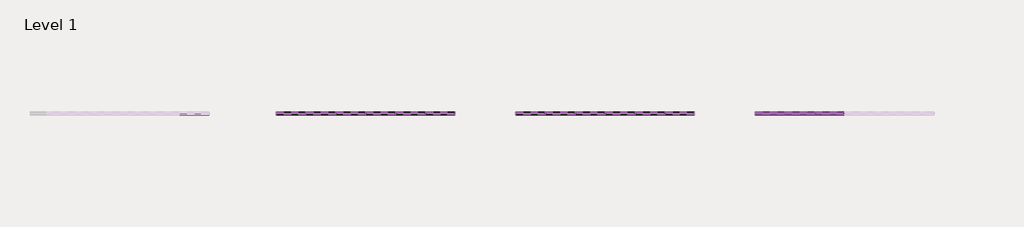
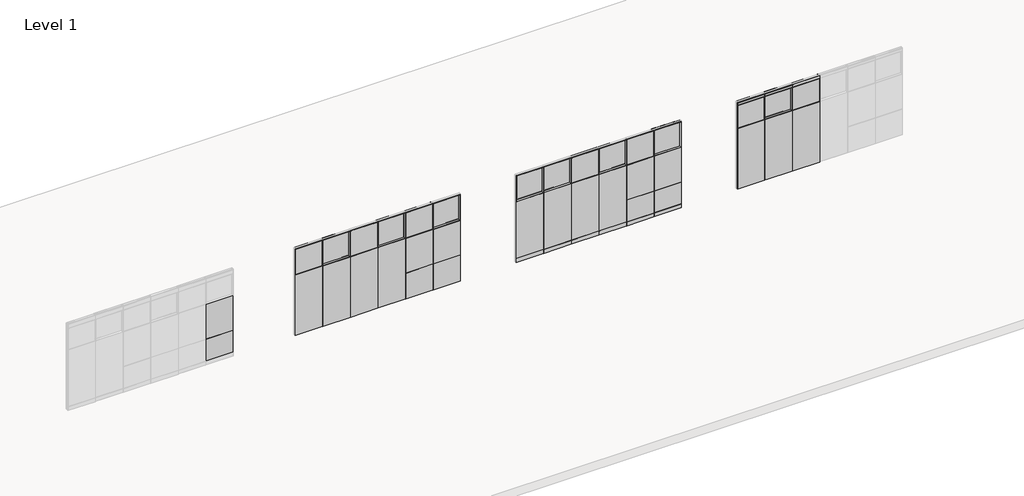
# One storey, part 14 of 22: 109 proxies.
"""IFC4 building model written with IfcOpenShell, lengths in millimetres."""

from ifc_helpers import new_model, si_unit, origin, place, context, project, spatial, transform, mapped, element, save
from components import fascia_teknion_ceiling_and_base_fpb1_0bfeef01, fascia_teknion_ceiling_and_base_fpb1_b9f04170, fascia_teknion_ceiling_and_base_fpb1_707b8d37, fascia_teknion_ceiling_and_base_fpb1_816009f4, fascia_teknion_ceiling_and_base_fpb1_c09701a2, fascia_teknion_ceiling_and_base_fpb1_cd47c96b, fascia_teknion_ceiling_and_base_fpc_0fdf7194, fascia_teknion_ceiling_and_base_fpc_b0ac7cd3, frame_teknion_horizontal_rail_5872ae1a, frame_teknion_horizontal_rail_46ee653b, glass_fascia_6f81bcf7, glass_fascia_75a64c95, glass_fascia_467b1f08, glass_fascia_2d5cffca, glass_fascia_d2a417b3, glass_fascia_b43ce2ad, glass_fascia_649ace3c, working_wall_monolithic_level_i_40b02bc1, level_ii_766fe766, level_ii_d745e7d9, level_ii_52e50c64, level_ii_09c6d2e8, segmented_monolithic_level_i_c740ac9f, segmented_monolithic_level_i_1ec0774b, segmented_monolithic_level_i_c631dfd0, segmented_monolithic_level_i_f7c86621, segmented_monolithic_level_i_79c8b360, segmented_monolithic_level_i_954095a9, segmented_monolithic_level_i_12355878, segmented_monolithic_level_i_a90e165b, working_wall_monolithic_level_i_0fd3c68e, working_wall_monolithic_level_i_0b7852cd, working_wall_monolithic_level_i_72bc8cad, working_wall_monolithic_level_i_9d4bea93, working_wall_monolithic_level_i_ddf61f7f, working_wall_monolithic_level_i_49ea217e, working_wall_monolithic_level_i_39047d6b

model = new_model("IFC4")

# Units and contexts
model_context = context("Model", 3, world=origin())
ifc_project = project(units=[si_unit("LENGTHUNIT", "METRE", prefix="MILLI")], contexts=[model_context])

# Site, building, storey
site = spatial("IfcSite", under=ifc_project)
building = spatial("IfcBuilding", under=site)
storey = spatial("IfcBuildingStorey", under=building, Name="Level 1", Elevation=0.0)

# Proxies
placement = place(None, origin())
fascia_teknion_ceiling_and_base_fpb1_shape = fascia_teknion_ceiling_and_base_fpb1_0bfeef01(model_context)
element("IfcBuildingElementProxy", 1, Name="Fascia-Teknion-Ceiling_and_Base : FPB1", ObjectType="Fascia-Teknion-Ceiling_and_Base : FPB1", at=placement, inside=storey, context=model_context, shape_type="MappedRepresentation", body=[
    mapped(fascia_teknion_ceiling_and_base_fpb1_shape, transform((36696.9908134, 1843.3402105, 15.875), x_axis=(1.0, 0.0, 0.0), y_axis=(0.0, 1.0, 0.0), z_axis=(0.0, 0.0, 1.0))),
])
element("IfcBuildingElementProxy", 2, Name="Fascia-Teknion-Ceiling_and_Base : FPB1", ObjectType="Fascia-Teknion-Ceiling_and_Base : FPB1", at=placement, inside=storey, context=model_context, shape_type="MappedRepresentation", body=[
    mapped(fascia_teknion_ceiling_and_base_fpb1_shape, transform((41255.0009696, 1843.3402105, 15.875), x_axis=(1.0, 0.0, 0.0), y_axis=(0.0, 1.0, 0.0), z_axis=(0.0, 0.0, 1.0))),
])
fascia_teknion_ceiling_and_base_fpb1_2_shape = fascia_teknion_ceiling_and_base_fpb1_b9f04170(model_context)
element("IfcBuildingElementProxy", 3, Name="Fascia-Teknion-Ceiling_and_Base : FPB1", ObjectType="Fascia-Teknion-Ceiling_and_Base : FPB1", at=placement, inside=storey, context=model_context, shape_type="MappedRepresentation", body=[
    mapped(fascia_teknion_ceiling_and_base_fpb1_2_shape, transform((36696.9908134, 1781.3642105, 15.875), x_axis=(1.0, 0.0, 0.0), y_axis=(0.0, 1.0, 0.0), z_axis=(0.0, 0.0, 1.0))),
])
element("IfcBuildingElementProxy", 4, Name="Fascia-Teknion-Ceiling_and_Base : FPB1", ObjectType="Fascia-Teknion-Ceiling_and_Base : FPB1", at=placement, inside=storey, context=model_context, shape_type="MappedRepresentation", body=[
    mapped(fascia_teknion_ceiling_and_base_fpb1_2_shape, transform((41255.0009696, 1781.3642105, 15.875), x_axis=(1.0, 0.0, 0.0), y_axis=(0.0, 1.0, 0.0), z_axis=(0.0, 0.0, 1.0))),
])
fascia_teknion_ceiling_and_base_fpb1_3_shape = fascia_teknion_ceiling_and_base_fpb1_707b8d37(model_context)
element("IfcBuildingElementProxy", 5, Name="Fascia-Teknion-Ceiling_and_Base : FPB1", ObjectType="Fascia-Teknion-Ceiling_and_Base : FPB1", at=placement, inside=storey, context=model_context, shape_type="MappedRepresentation", body=[
    mapped(fascia_teknion_ceiling_and_base_fpb1_3_shape, transform((40347.5958915, 1781.3642105, 15.875), x_axis=(1.0, 0.0, 0.0), y_axis=(0.0, 1.0, 0.0), z_axis=(0.0, 0.0, 1.0))),
])
element("IfcBuildingElementProxy", 6, Name="Fascia-Teknion-Ceiling_and_Base : FPB1", ObjectType="Fascia-Teknion-Ceiling_and_Base : FPB1", at=placement, inside=storey, context=model_context, shape_type="MappedRepresentation", body=[
    mapped(fascia_teknion_ceiling_and_base_fpb1_3_shape, transform((39433.1958915, 1781.3642105, 15.875), x_axis=(1.0, 0.0, 0.0), y_axis=(0.0, 1.0, 0.0), z_axis=(0.0, 0.0, 1.0))),
])
element("IfcBuildingElementProxy", 7, Name="Fascia-Teknion-Ceiling_and_Base : FPB1", ObjectType="Fascia-Teknion-Ceiling_and_Base : FPB1", at=placement, inside=storey, context=model_context, shape_type="MappedRepresentation", body=[
    mapped(fascia_teknion_ceiling_and_base_fpb1_3_shape, transform((38518.7958915, 1781.3642105, 15.875), x_axis=(1.0, 0.0, 0.0), y_axis=(0.0, 1.0, 0.0), z_axis=(0.0, 0.0, 1.0))),
])
element("IfcBuildingElementProxy", 8, Name="Fascia-Teknion-Ceiling_and_Base : FPB1", ObjectType="Fascia-Teknion-Ceiling_and_Base : FPB1", at=placement, inside=storey, context=model_context, shape_type="MappedRepresentation", body=[
    mapped(fascia_teknion_ceiling_and_base_fpb1_3_shape, transform((37604.3958915, 1781.3642105, 15.875), x_axis=(1.0, 0.0, 0.0), y_axis=(0.0, 1.0, 0.0), z_axis=(0.0, 0.0, 1.0))),
])
fascia_teknion_ceiling_and_base_fpb1_4_shape = fascia_teknion_ceiling_and_base_fpb1_816009f4(model_context)
element("IfcBuildingElementProxy", 9, Name="Fascia-Teknion-Ceiling_and_Base : FPB1", ObjectType="Fascia-Teknion-Ceiling_and_Base : FPB1", at=placement, inside=storey, context=model_context, shape_type="MappedRepresentation", body=[
    mapped(fascia_teknion_ceiling_and_base_fpb1_4_shape, transform((40347.5958915, 1843.3402105, 15.875), x_axis=(1.0, 0.0, 0.0), y_axis=(0.0, 1.0, 0.0), z_axis=(0.0, 0.0, 1.0))),
])
element("IfcBuildingElementProxy", 10, Name="Fascia-Teknion-Ceiling_and_Base : FPB1", ObjectType="Fascia-Teknion-Ceiling_and_Base : FPB1", at=placement, inside=storey, context=model_context, shape_type="MappedRepresentation", body=[
    mapped(fascia_teknion_ceiling_and_base_fpb1_4_shape, transform((39433.1958915, 1843.3402105, 15.875), x_axis=(1.0, 0.0, 0.0), y_axis=(0.0, 1.0, 0.0), z_axis=(0.0, 0.0, 1.0))),
])
element("IfcBuildingElementProxy", 11, Name="Fascia-Teknion-Ceiling_and_Base : FPB1", ObjectType="Fascia-Teknion-Ceiling_and_Base : FPB1", at=placement, inside=storey, context=model_context, shape_type="MappedRepresentation", body=[
    mapped(fascia_teknion_ceiling_and_base_fpb1_4_shape, transform((38518.7958915, 1843.3402105, 15.875), x_axis=(1.0, 0.0, 0.0), y_axis=(0.0, 1.0, 0.0), z_axis=(0.0, 0.0, 1.0))),
])
element("IfcBuildingElementProxy", 12, Name="Fascia-Teknion-Ceiling_and_Base : FPB1", ObjectType="Fascia-Teknion-Ceiling_and_Base : FPB1", at=placement, inside=storey, context=model_context, shape_type="MappedRepresentation", body=[
    mapped(fascia_teknion_ceiling_and_base_fpb1_4_shape, transform((37604.3958915, 1843.3402105, 15.875), x_axis=(1.0, 0.0, 0.0), y_axis=(0.0, 1.0, 0.0), z_axis=(0.0, 0.0, 1.0))),
])
fascia_teknion_ceiling_and_base_fpb1_5_shape = fascia_teknion_ceiling_and_base_fpb1_c09701a2(model_context)
element("IfcBuildingElementProxy", 13, Name="Fascia-Teknion-Ceiling_and_Base : FPC", ObjectType="Fascia-Teknion-Ceiling_and_Base : FPC", at=placement, inside=storey, context=model_context, shape_type="MappedRepresentation", body=[
    mapped(fascia_teknion_ceiling_and_base_fpb1_5_shape, transform((44012.1908134, 1781.3642105, 2950.845), x_axis=(1.0, 0.0, 0.0), y_axis=(0.0, 1.0, 0.0), z_axis=(0.0, 0.0, 1.0))),
])
fascia_teknion_ceiling_and_base_fpb1_6_shape = fascia_teknion_ceiling_and_base_fpb1_cd47c96b(model_context)
element("IfcBuildingElementProxy", 14, Name="Fascia-Teknion-Ceiling_and_Base : FPC", ObjectType="Fascia-Teknion-Ceiling_and_Base : FPC", at=placement, inside=storey, context=model_context, shape_type="MappedRepresentation", body=[
    mapped(fascia_teknion_ceiling_and_base_fpb1_6_shape, transform((44012.1908134, 1843.3402105, 2950.845), x_axis=(1.0, 0.0, 0.0), y_axis=(0.0, 1.0, 0.0), z_axis=(0.0, 0.0, 1.0))),
])
fascia_teknion_ceiling_and_base_fpc_shape = fascia_teknion_ceiling_and_base_fpc_0fdf7194(model_context)
element("IfcBuildingElementProxy", 15, Name="Fascia-Teknion-Ceiling_and_Base : FPC", ObjectType="Fascia-Teknion-Ceiling_and_Base : FPC", at=placement, inside=storey, context=model_context, shape_type="MappedRepresentation", body=[
    mapped(fascia_teknion_ceiling_and_base_fpc_shape, transform((45833.9958915, 1781.3642105, 2950.845), x_axis=(1.0, 0.0, 0.0), y_axis=(0.0, 1.0, 0.0), z_axis=(0.0, 0.0, 1.0))),
])
element("IfcBuildingElementProxy", 16, Name="Fascia-Teknion-Ceiling_and_Base : FPC", ObjectType="Fascia-Teknion-Ceiling_and_Base : FPC", at=placement, inside=storey, context=model_context, shape_type="MappedRepresentation", body=[
    mapped(fascia_teknion_ceiling_and_base_fpc_shape, transform((44919.5958915, 1781.3642105, 2950.845), x_axis=(1.0, 0.0, 0.0), y_axis=(0.0, 1.0, 0.0), z_axis=(0.0, 0.0, 1.0))),
])
fascia_teknion_ceiling_and_base_fpc_2_shape = fascia_teknion_ceiling_and_base_fpc_b0ac7cd3(model_context)
element("IfcBuildingElementProxy", 17, Name="Fascia-Teknion-Ceiling_and_Base : FPC", ObjectType="Fascia-Teknion-Ceiling_and_Base : FPC", at=placement, inside=storey, context=model_context, shape_type="MappedRepresentation", body=[
    mapped(fascia_teknion_ceiling_and_base_fpc_2_shape, transform((45833.9958915, 1843.3402105, 2950.845), x_axis=(1.0, 0.0, 0.0), y_axis=(0.0, 1.0, 0.0), z_axis=(0.0, 0.0, 1.0))),
])
element("IfcBuildingElementProxy", 18, Name="Fascia-Teknion-Ceiling_and_Base : FPC", ObjectType="Fascia-Teknion-Ceiling_and_Base : FPC", at=placement, inside=storey, context=model_context, shape_type="MappedRepresentation", body=[
    mapped(fascia_teknion_ceiling_and_base_fpc_2_shape, transform((44919.5958915, 1843.3402105, 2950.845), x_axis=(1.0, 0.0, 0.0), y_axis=(0.0, 1.0, 0.0), z_axis=(0.0, 0.0, 1.0))),
])
frame_teknion_horizontal_rail_shape = frame_teknion_horizontal_rail_5872ae1a(model_context)
element("IfcBuildingElementProxy", 19, Name="Frame-Teknion-Horizontal_Rail : FPKK", ObjectType="Frame-Teknion-Horizontal_Rail : FPKK", at=placement, inside=storey, context=model_context, shape_type="MappedRepresentation", body=[
    mapped(frame_teknion_horizontal_rail_shape, transform((29381.7908134, 1812.3522105, 2136.775), x_axis=(1.0, 0.0, 0.0), y_axis=(0.0, 1.0, 0.0), z_axis=(0.0, 0.0, 1.0))),
])
element("IfcBuildingElementProxy", 20, Name="Frame-Teknion-Horizontal_Rail : FPKK", ObjectType="Frame-Teknion-Horizontal_Rail : FPKK", at=placement, inside=storey, context=model_context, shape_type="MappedRepresentation", body=[
    mapped(frame_teknion_horizontal_rail_shape, transform((33939.8009696, 1812.3522105, 2136.775), x_axis=(1.0, 0.0, 0.0), y_axis=(0.0, 1.0, 0.0), z_axis=(0.0, 0.0, 1.0))),
])
element("IfcBuildingElementProxy", 21, Name="Frame-Teknion-Horizontal_Rail : FPKK", ObjectType="Frame-Teknion-Horizontal_Rail : FPKK", at=placement, inside=storey, context=model_context, shape_type="MappedRepresentation", body=[
    mapped(frame_teknion_horizontal_rail_shape, transform((33939.8009696, 1812.3522105, 917.575), x_axis=(1.0, 0.0, 0.0), y_axis=(0.0, 1.0, 0.0), z_axis=(0.0, 0.0, 1.0))),
])
element("IfcBuildingElementProxy", 22, Name="Frame-Teknion-Horizontal_Rail : FPKK", ObjectType="Frame-Teknion-Horizontal_Rail : FPKK", at=placement, inside=storey, context=model_context, shape_type="MappedRepresentation", body=[
    mapped(frame_teknion_horizontal_rail_shape, transform((36696.9908134, 1812.3522105, 151.257), x_axis=(1.0, 0.0, 0.0), y_axis=(0.0, 1.0, 0.0), z_axis=(0.0, 0.0, 1.0))),
])
element("IfcBuildingElementProxy", 23, Name="Frame-Teknion-Horizontal_Rail : FPKK", ObjectType="Frame-Teknion-Horizontal_Rail : FPKK", at=placement, inside=storey, context=model_context, shape_type="MappedRepresentation", body=[
    mapped(frame_teknion_horizontal_rail_shape, transform((36696.9908134, 1812.3522105, 2136.775), x_axis=(1.0, 0.0, 0.0), y_axis=(0.0, 1.0, 0.0), z_axis=(0.0, 0.0, 1.0))),
])
element("IfcBuildingElementProxy", 24, Name="Frame-Teknion-Horizontal_Rail : FPKK", ObjectType="Frame-Teknion-Horizontal_Rail : FPKK", at=placement, inside=storey, context=model_context, shape_type="MappedRepresentation", body=[
    mapped(frame_teknion_horizontal_rail_shape, transform((41255.0009696, 1812.3522105, 2136.775), x_axis=(1.0, 0.0, 0.0), y_axis=(0.0, 1.0, 0.0), z_axis=(0.0, 0.0, 1.0))),
])
element("IfcBuildingElementProxy", 25, Name="Frame-Teknion-Horizontal_Rail : FPKK", ObjectType="Frame-Teknion-Horizontal_Rail : FPKK", at=placement, inside=storey, context=model_context, shape_type="MappedRepresentation", body=[
    mapped(frame_teknion_horizontal_rail_shape, transform((41255.0009696, 1812.3522105, 151.257), x_axis=(1.0, 0.0, 0.0), y_axis=(0.0, 1.0, 0.0), z_axis=(0.0, 0.0, 1.0))),
])
element("IfcBuildingElementProxy", 26, Name="Frame-Teknion-Horizontal_Rail : FPKK", ObjectType="Frame-Teknion-Horizontal_Rail : FPKK", at=placement, inside=storey, context=model_context, shape_type="MappedRepresentation", body=[
    mapped(frame_teknion_horizontal_rail_shape, transform((41255.0009696, 1812.3522105, 917.575), x_axis=(1.0, 0.0, 0.0), y_axis=(0.0, 1.0, 0.0), z_axis=(0.0, 0.0, 1.0))),
])
element("IfcBuildingElementProxy", 27, Name="Frame-Teknion-Horizontal_Rail : FPKK", ObjectType="Frame-Teknion-Horizontal_Rail : FPKK", at=placement, inside=storey, context=model_context, shape_type="MappedRepresentation", body=[
    mapped(frame_teknion_horizontal_rail_shape, transform((44012.1908134, 1812.3522105, 2949.1305), x_axis=(1.0, 0.0, 0.0), y_axis=(0.0, 1.0, 0.0), z_axis=(0.0, 0.0, 1.0))),
])
element("IfcBuildingElementProxy", 28, Name="Frame-Teknion-Horizontal_Rail : FPKK", ObjectType="Frame-Teknion-Horizontal_Rail : FPKK", at=placement, inside=storey, context=model_context, shape_type="MappedRepresentation", body=[
    mapped(frame_teknion_horizontal_rail_shape, transform((44012.1908134, 1812.3522105, 2136.775), x_axis=(1.0, 0.0, 0.0), y_axis=(0.0, 1.0, 0.0), z_axis=(0.0, 0.0, 1.0))),
])
frame_teknion_horizontal_rail_2_shape = frame_teknion_horizontal_rail_46ee653b(model_context)
element("IfcBuildingElementProxy", 29, Name="Frame-Teknion-Horizontal_Rail : FPKK", ObjectType="Frame-Teknion-Horizontal_Rail : FPKK", at=placement, inside=storey, context=model_context, shape_type="MappedRepresentation", body=[
    mapped(frame_teknion_horizontal_rail_2_shape, transform((33032.3958915, 1812.3522105, 2136.775), x_axis=(1.0, 0.0, 0.0), y_axis=(0.0, 1.0, 0.0), z_axis=(0.0, 0.0, 1.0))),
])
element("IfcBuildingElementProxy", 30, Name="Frame-Teknion-Horizontal_Rail : FPKK", ObjectType="Frame-Teknion-Horizontal_Rail : FPKK", at=placement, inside=storey, context=model_context, shape_type="MappedRepresentation", body=[
    mapped(frame_teknion_horizontal_rail_2_shape, transform((32117.9958915, 1812.3522105, 2136.775), x_axis=(1.0, 0.0, 0.0), y_axis=(0.0, 1.0, 0.0), z_axis=(0.0, 0.0, 1.0))),
])
element("IfcBuildingElementProxy", 31, Name="Frame-Teknion-Horizontal_Rail : FPKK", ObjectType="Frame-Teknion-Horizontal_Rail : FPKK", at=placement, inside=storey, context=model_context, shape_type="MappedRepresentation", body=[
    mapped(frame_teknion_horizontal_rail_2_shape, transform((31203.5958915, 1812.3522105, 2136.775), x_axis=(1.0, 0.0, 0.0), y_axis=(0.0, 1.0, 0.0), z_axis=(0.0, 0.0, 1.0))),
])
element("IfcBuildingElementProxy", 32, Name="Frame-Teknion-Horizontal_Rail : FPKK", ObjectType="Frame-Teknion-Horizontal_Rail : FPKK", at=placement, inside=storey, context=model_context, shape_type="MappedRepresentation", body=[
    mapped(frame_teknion_horizontal_rail_2_shape, transform((30289.1958915, 1812.3522105, 2136.775), x_axis=(1.0, 0.0, 0.0), y_axis=(0.0, 1.0, 0.0), z_axis=(0.0, 0.0, 1.0))),
])
element("IfcBuildingElementProxy", 33, Name="Frame-Teknion-Horizontal_Rail : FPKK", ObjectType="Frame-Teknion-Horizontal_Rail : FPKK", at=placement, inside=storey, context=model_context, shape_type="MappedRepresentation", body=[
    mapped(frame_teknion_horizontal_rail_2_shape, transform((31203.5958915, 1812.3522105, 917.575), x_axis=(1.0, 0.0, 0.0), y_axis=(0.0, 1.0, 0.0), z_axis=(0.0, 0.0, 1.0))),
])
element("IfcBuildingElementProxy", 34, Name="Frame-Teknion-Horizontal_Rail : FPKK", ObjectType="Frame-Teknion-Horizontal_Rail : FPKK", at=placement, inside=storey, context=model_context, shape_type="MappedRepresentation", body=[
    mapped(frame_teknion_horizontal_rail_2_shape, transform((32117.9958915, 1812.3522105, 917.575), x_axis=(1.0, 0.0, 0.0), y_axis=(0.0, 1.0, 0.0), z_axis=(0.0, 0.0, 1.0))),
])
element("IfcBuildingElementProxy", 35, Name="Frame-Teknion-Horizontal_Rail : FPKK", ObjectType="Frame-Teknion-Horizontal_Rail : FPKK", at=placement, inside=storey, context=model_context, shape_type="MappedRepresentation", body=[
    mapped(frame_teknion_horizontal_rail_2_shape, transform((33032.3958915, 1812.3522105, 917.575), x_axis=(1.0, 0.0, 0.0), y_axis=(0.0, 1.0, 0.0), z_axis=(0.0, 0.0, 1.0))),
])
element("IfcBuildingElementProxy", 36, Name="Frame-Teknion-Horizontal_Rail : FPKK", ObjectType="Frame-Teknion-Horizontal_Rail : FPKK", at=placement, inside=storey, context=model_context, shape_type="MappedRepresentation", body=[
    mapped(frame_teknion_horizontal_rail_2_shape, transform((40347.5958915, 1812.3522105, 2136.775), x_axis=(1.0, 0.0, 0.0), y_axis=(0.0, 1.0, 0.0), z_axis=(0.0, 0.0, 1.0))),
])
element("IfcBuildingElementProxy", 37, Name="Frame-Teknion-Horizontal_Rail : FPKK", ObjectType="Frame-Teknion-Horizontal_Rail : FPKK", at=placement, inside=storey, context=model_context, shape_type="MappedRepresentation", body=[
    mapped(frame_teknion_horizontal_rail_2_shape, transform((40347.5958915, 1812.3522105, 151.257), x_axis=(1.0, 0.0, 0.0), y_axis=(0.0, 1.0, 0.0), z_axis=(0.0, 0.0, 1.0))),
])
element("IfcBuildingElementProxy", 38, Name="Frame-Teknion-Horizontal_Rail : FPKK", ObjectType="Frame-Teknion-Horizontal_Rail : FPKK", at=placement, inside=storey, context=model_context, shape_type="MappedRepresentation", body=[
    mapped(frame_teknion_horizontal_rail_2_shape, transform((39433.1958915, 1812.3522105, 2136.775), x_axis=(1.0, 0.0, 0.0), y_axis=(0.0, 1.0, 0.0), z_axis=(0.0, 0.0, 1.0))),
])
element("IfcBuildingElementProxy", 39, Name="Frame-Teknion-Horizontal_Rail : FPKK", ObjectType="Frame-Teknion-Horizontal_Rail : FPKK", at=placement, inside=storey, context=model_context, shape_type="MappedRepresentation", body=[
    mapped(frame_teknion_horizontal_rail_2_shape, transform((39433.1958915, 1812.3522105, 151.257), x_axis=(1.0, 0.0, 0.0), y_axis=(0.0, 1.0, 0.0), z_axis=(0.0, 0.0, 1.0))),
])
element("IfcBuildingElementProxy", 40, Name="Frame-Teknion-Horizontal_Rail : FPKK", ObjectType="Frame-Teknion-Horizontal_Rail : FPKK", at=placement, inside=storey, context=model_context, shape_type="MappedRepresentation", body=[
    mapped(frame_teknion_horizontal_rail_2_shape, transform((38518.7958915, 1812.3522105, 2136.775), x_axis=(1.0, 0.0, 0.0), y_axis=(0.0, 1.0, 0.0), z_axis=(0.0, 0.0, 1.0))),
])
element("IfcBuildingElementProxy", 41, Name="Frame-Teknion-Horizontal_Rail : FPKK", ObjectType="Frame-Teknion-Horizontal_Rail : FPKK", at=placement, inside=storey, context=model_context, shape_type="MappedRepresentation", body=[
    mapped(frame_teknion_horizontal_rail_2_shape, transform((38518.7958915, 1812.3522105, 151.257), x_axis=(1.0, 0.0, 0.0), y_axis=(0.0, 1.0, 0.0), z_axis=(0.0, 0.0, 1.0))),
])
element("IfcBuildingElementProxy", 42, Name="Frame-Teknion-Horizontal_Rail : FPKK", ObjectType="Frame-Teknion-Horizontal_Rail : FPKK", at=placement, inside=storey, context=model_context, shape_type="MappedRepresentation", body=[
    mapped(frame_teknion_horizontal_rail_2_shape, transform((37604.3958915, 1812.3522105, 2136.775), x_axis=(1.0, 0.0, 0.0), y_axis=(0.0, 1.0, 0.0), z_axis=(0.0, 0.0, 1.0))),
])
element("IfcBuildingElementProxy", 43, Name="Frame-Teknion-Horizontal_Rail : FPKK", ObjectType="Frame-Teknion-Horizontal_Rail : FPKK", at=placement, inside=storey, context=model_context, shape_type="MappedRepresentation", body=[
    mapped(frame_teknion_horizontal_rail_2_shape, transform((37604.3958915, 1812.3522105, 151.257), x_axis=(1.0, 0.0, 0.0), y_axis=(0.0, 1.0, 0.0), z_axis=(0.0, 0.0, 1.0))),
])
element("IfcBuildingElementProxy", 44, Name="Frame-Teknion-Horizontal_Rail : FPKK", ObjectType="Frame-Teknion-Horizontal_Rail : FPKK", at=placement, inside=storey, context=model_context, shape_type="MappedRepresentation", body=[
    mapped(frame_teknion_horizontal_rail_2_shape, transform((40347.5958915, 1812.3522105, 917.575), x_axis=(1.0, 0.0, 0.0), y_axis=(0.0, 1.0, 0.0), z_axis=(0.0, 0.0, 1.0))),
])
element("IfcBuildingElementProxy", 45, Name="Frame-Teknion-Horizontal_Rail : FPKK", ObjectType="Frame-Teknion-Horizontal_Rail : FPKK", at=placement, inside=storey, context=model_context, shape_type="MappedRepresentation", body=[
    mapped(frame_teknion_horizontal_rail_2_shape, transform((45833.9958915, 1812.3522105, 2136.775), x_axis=(1.0, 0.0, 0.0), y_axis=(0.0, 1.0, 0.0), z_axis=(0.0, 0.0, 1.0))),
])
element("IfcBuildingElementProxy", 46, Name="Frame-Teknion-Horizontal_Rail : FPKK", ObjectType="Frame-Teknion-Horizontal_Rail : FPKK", at=placement, inside=storey, context=model_context, shape_type="MappedRepresentation", body=[
    mapped(frame_teknion_horizontal_rail_2_shape, transform((45833.9958915, 1812.3522105, 2949.1305), x_axis=(1.0, 0.0, 0.0), y_axis=(0.0, 1.0, 0.0), z_axis=(0.0, 0.0, 1.0))),
])
element("IfcBuildingElementProxy", 47, Name="Frame-Teknion-Horizontal_Rail : FPKK", ObjectType="Frame-Teknion-Horizontal_Rail : FPKK", at=placement, inside=storey, context=model_context, shape_type="MappedRepresentation", body=[
    mapped(frame_teknion_horizontal_rail_2_shape, transform((44919.5958915, 1812.3522105, 2136.775), x_axis=(1.0, 0.0, 0.0), y_axis=(0.0, 1.0, 0.0), z_axis=(0.0, 0.0, 1.0))),
])
element("IfcBuildingElementProxy", 48, Name="Frame-Teknion-Horizontal_Rail : FPKK", ObjectType="Frame-Teknion-Horizontal_Rail : FPKK", at=placement, inside=storey, context=model_context, shape_type="MappedRepresentation", body=[
    mapped(frame_teknion_horizontal_rail_2_shape, transform((44919.5958915, 1812.3522105, 2949.1305), x_axis=(1.0, 0.0, 0.0), y_axis=(0.0, 1.0, 0.0), z_axis=(0.0, 0.0, 1.0))),
])
element("IfcBuildingElementProxy", 49, Name="Frame-Teknion-Horizontal_Rail : FPKK", ObjectType="Frame-Teknion-Horizontal_Rail : FPKK", at=placement, inside=storey, context=model_context, shape_type="MappedRepresentation", body=[
    mapped(frame_teknion_horizontal_rail_2_shape, transform((45833.9958915, 1812.3522105, 917.575), x_axis=(1.0, 0.0, 0.0), y_axis=(0.0, 1.0, 0.0), z_axis=(0.0, 0.0, 1.0))),
])
glass_fascia_shape = glass_fascia_6f81bcf7(model_context)
element("IfcBuildingElementProxy", 50, Name="Panel-Fascia-Teknion-Altos-Glass : Glass Fascia", ObjectType="Panel-Fascia-Teknion-Altos-Glass : Glass Fascia", at=placement, inside=storey, context=model_context, shape_type="MappedRepresentation", body=[
    mapped(glass_fascia_shape, transform((29381.7908134, 1812.3522105, 2136.775), x_axis=(1.0, 0.0, 0.0), y_axis=(0.0, 1.0, 0.0), z_axis=(0.0, 0.0, 1.0))),
])
glass_fascia_2_shape = glass_fascia_75a64c95(model_context)
element("IfcBuildingElementProxy", 51, Name="Panel-Fascia-Teknion-Altos-Glass : Glass Fascia", ObjectType="Panel-Fascia-Teknion-Altos-Glass : Glass Fascia", at=placement, inside=storey, context=model_context, shape_type="MappedRepresentation", body=[
    mapped(glass_fascia_2_shape, transform((33939.8009696, 1812.3522105, 2136.775), x_axis=(1.0, 0.0, 0.0), y_axis=(0.0, 1.0, 0.0), z_axis=(0.0, 0.0, 1.0))),
])
element("IfcBuildingElementProxy", 52, Name="Panel-Fascia-Teknion-Altos-Glass : Glass Fascia", ObjectType="Panel-Fascia-Teknion-Altos-Glass : Glass Fascia", at=placement, inside=storey, context=model_context, shape_type="MappedRepresentation", body=[
    mapped(glass_fascia_2_shape, transform((36696.9908134, 1812.3522105, 2136.775), x_axis=(1.0, 0.0, 0.0), y_axis=(0.0, 1.0, 0.0), z_axis=(0.0, 0.0, 1.0))),
])
element("IfcBuildingElementProxy", 53, Name="Panel-Fascia-Teknion-Altos-Glass : Glass Fascia", ObjectType="Panel-Fascia-Teknion-Altos-Glass : Glass Fascia", at=placement, inside=storey, context=model_context, shape_type="MappedRepresentation", body=[
    mapped(glass_fascia_2_shape, transform((41255.0009696, 1812.3522105, 2136.775), x_axis=(1.0, 0.0, 0.0), y_axis=(0.0, 1.0, 0.0), z_axis=(0.0, 0.0, 1.0))),
])
glass_fascia_3_shape = glass_fascia_467b1f08(model_context)
element("IfcBuildingElementProxy", 54, Name="Panel-Fascia-Teknion-Altos-Glass : Glass Fascia", ObjectType="Panel-Fascia-Teknion-Altos-Glass : Glass Fascia", at=placement, inside=storey, context=model_context, shape_type="MappedRepresentation", body=[
    mapped(glass_fascia_3_shape, transform((33032.3958915, 1812.3522105, 2136.775), x_axis=(1.0, 0.0, 0.0), y_axis=(0.0, 1.0, 0.0), z_axis=(0.0, 0.0, 1.0))),
])
element("IfcBuildingElementProxy", 55, Name="Panel-Fascia-Teknion-Altos-Glass : Glass Fascia", ObjectType="Panel-Fascia-Teknion-Altos-Glass : Glass Fascia", at=placement, inside=storey, context=model_context, shape_type="MappedRepresentation", body=[
    mapped(glass_fascia_3_shape, transform((31203.5958915, 1812.3522105, 2136.775), x_axis=(1.0, 0.0, 0.0), y_axis=(0.0, 1.0, 0.0), z_axis=(0.0, 0.0, 1.0))),
])
element("IfcBuildingElementProxy", 56, Name="Panel-Fascia-Teknion-Altos-Glass : Glass Fascia", ObjectType="Panel-Fascia-Teknion-Altos-Glass : Glass Fascia", at=placement, inside=storey, context=model_context, shape_type="MappedRepresentation", body=[
    mapped(glass_fascia_3_shape, transform((40347.5958915, 1812.3522105, 2136.775), x_axis=(1.0, 0.0, 0.0), y_axis=(0.0, 1.0, 0.0), z_axis=(0.0, 0.0, 1.0))),
])
element("IfcBuildingElementProxy", 57, Name="Panel-Fascia-Teknion-Altos-Glass : Glass Fascia", ObjectType="Panel-Fascia-Teknion-Altos-Glass : Glass Fascia", at=placement, inside=storey, context=model_context, shape_type="MappedRepresentation", body=[
    mapped(glass_fascia_3_shape, transform((38518.7958915, 1812.3522105, 2136.775), x_axis=(1.0, 0.0, 0.0), y_axis=(0.0, 1.0, 0.0), z_axis=(0.0, 0.0, 1.0))),
])
glass_fascia_4_shape = glass_fascia_2d5cffca(model_context)
element("IfcBuildingElementProxy", 58, Name="Panel-Fascia-Teknion-Altos-Glass : Glass Fascia", ObjectType="Panel-Fascia-Teknion-Altos-Glass : Glass Fascia", at=placement, inside=storey, context=model_context, shape_type="MappedRepresentation", body=[
    mapped(glass_fascia_4_shape, transform((32117.9958915, 1812.3522105, 2136.775), x_axis=(1.0, 0.0, 0.0), y_axis=(0.0, 1.0, 0.0), z_axis=(0.0, 0.0, 1.0))),
])
element("IfcBuildingElementProxy", 59, Name="Panel-Fascia-Teknion-Altos-Glass : Glass Fascia", ObjectType="Panel-Fascia-Teknion-Altos-Glass : Glass Fascia", at=placement, inside=storey, context=model_context, shape_type="MappedRepresentation", body=[
    mapped(glass_fascia_4_shape, transform((30289.1958915, 1812.3522105, 2136.775), x_axis=(1.0, 0.0, 0.0), y_axis=(0.0, 1.0, 0.0), z_axis=(0.0, 0.0, 1.0))),
])
element("IfcBuildingElementProxy", 60, Name="Panel-Fascia-Teknion-Altos-Glass : Glass Fascia", ObjectType="Panel-Fascia-Teknion-Altos-Glass : Glass Fascia", at=placement, inside=storey, context=model_context, shape_type="MappedRepresentation", body=[
    mapped(glass_fascia_4_shape, transform((39433.1958915, 1812.3522105, 2136.775), x_axis=(1.0, 0.0, 0.0), y_axis=(0.0, 1.0, 0.0), z_axis=(0.0, 0.0, 1.0))),
])
element("IfcBuildingElementProxy", 61, Name="Panel-Fascia-Teknion-Altos-Glass : Glass Fascia", ObjectType="Panel-Fascia-Teknion-Altos-Glass : Glass Fascia", at=placement, inside=storey, context=model_context, shape_type="MappedRepresentation", body=[
    mapped(glass_fascia_4_shape, transform((37604.3958915, 1812.3522105, 2136.775), x_axis=(1.0, 0.0, 0.0), y_axis=(0.0, 1.0, 0.0), z_axis=(0.0, 0.0, 1.0))),
])
glass_fascia_5_shape = glass_fascia_d2a417b3(model_context)
element("IfcBuildingElementProxy", 62, Name="Panel-Fascia-Teknion-Altos-Glass : Glass Fascia", ObjectType="Panel-Fascia-Teknion-Altos-Glass : Glass Fascia", at=placement, inside=storey, context=model_context, shape_type="MappedRepresentation", body=[
    mapped(glass_fascia_5_shape, transform((44012.1908134, 1812.3522105, 2136.775), x_axis=(1.0, 0.0, 0.0), y_axis=(0.0, 1.0, 0.0), z_axis=(0.0, 0.0, 1.0))),
])
glass_fascia_6_shape = glass_fascia_b43ce2ad(model_context)
element("IfcBuildingElementProxy", 63, Name="Panel-Fascia-Teknion-Altos-Glass : Glass Fascia", ObjectType="Panel-Fascia-Teknion-Altos-Glass : Glass Fascia", at=placement, inside=storey, context=model_context, shape_type="MappedRepresentation", body=[
    mapped(glass_fascia_6_shape, transform((45833.9958915, 1812.3522105, 2136.775), x_axis=(1.0, 0.0, 0.0), y_axis=(0.0, 1.0, 0.0), z_axis=(0.0, 0.0, 1.0))),
])
glass_fascia_7_shape = glass_fascia_649ace3c(model_context)
element("IfcBuildingElementProxy", 64, Name="Panel-Fascia-Teknion-Altos-Glass : Glass Fascia", ObjectType="Panel-Fascia-Teknion-Altos-Glass : Glass Fascia", at=placement, inside=storey, context=model_context, shape_type="MappedRepresentation", body=[
    mapped(glass_fascia_7_shape, transform((44919.5958915, 1812.3522105, 2136.775), x_axis=(1.0, 0.0, 0.0), y_axis=(0.0, 1.0, 0.0), z_axis=(0.0, 0.0, 1.0))),
])
working_wall_monolithic_level_i_shape = working_wall_monolithic_level_i_40b02bc1(model_context)
element("IfcBuildingElementProxy", 65, Name="Panel-Fascia-Teknion-Altos-Standard : Level I", ObjectType="Panel-Fascia-Teknion-Altos-Standard : Level I", at=placement, inside=storey, context=model_context, shape_type="MappedRepresentation", body=[
    mapped(working_wall_monolithic_level_i_shape, transform((26421.4009696, 1771.8392105, 151.257), x_axis=(1.0, 0.0, 0.0), y_axis=(0.0, 1.0, 0.0), z_axis=(0.0, 0.0, 1.0))),
])
level_ii_shape = level_ii_766fe766(model_context)
element("IfcBuildingElementProxy", 66, Name="Panel-Fascia-Teknion-Altos : Level II", ObjectType="Panel-Fascia-Teknion-Altos : Level II", at=placement, inside=storey, context=model_context, shape_type="MappedRepresentation", body=[
    mapped(level_ii_shape, transform((41255.0009696, 1771.8392105, 917.575), x_axis=(1.0, 0.0, 0.0), y_axis=(0.0, 1.0, 0.0), z_axis=(0.0, 0.0, 1.0))),
])
level_ii_2_shape = level_ii_d745e7d9(model_context)
element("IfcBuildingElementProxy", 67, Name="Panel-Fascia-Teknion-Altos : Level II", ObjectType="Panel-Fascia-Teknion-Altos : Level II", at=placement, inside=storey, context=model_context, shape_type="MappedRepresentation", body=[
    mapped(level_ii_2_shape, transform((41255.0009696, 1852.8652105, 917.575), x_axis=(1.0, 0.0, 0.0), y_axis=(0.0, 1.0, 0.0), z_axis=(0.0, 0.0, 1.0))),
])
level_ii_3_shape = level_ii_52e50c64(model_context)
element("IfcBuildingElementProxy", 68, Name="Panel-Fascia-Teknion-Altos : Level II", ObjectType="Panel-Fascia-Teknion-Altos : Level II", at=placement, inside=storey, context=model_context, shape_type="MappedRepresentation", body=[
    mapped(level_ii_3_shape, transform((40347.5958915, 1771.8392105, 917.575), x_axis=(1.0, 0.0, 0.0), y_axis=(0.0, 1.0, 0.0), z_axis=(0.0, 0.0, 1.0))),
])
level_ii_4_shape = level_ii_09c6d2e8(model_context)
element("IfcBuildingElementProxy", 69, Name="Panel-Fascia-Teknion-Altos : Level II", ObjectType="Panel-Fascia-Teknion-Altos : Level II", at=placement, inside=storey, context=model_context, shape_type="MappedRepresentation", body=[
    mapped(level_ii_4_shape, transform((40347.5958915, 1852.8652105, 917.575), x_axis=(1.0, 0.0, 0.0), y_axis=(0.0, 1.0, 0.0), z_axis=(0.0, 0.0, 1.0))),
])
element("IfcBuildingElementProxy", 70, Name="Panel-Fascia-Teknion-Altos : Level II", ObjectType="Panel-Fascia-Teknion-Altos : Level II", at=placement, inside=storey, context=model_context, shape_type="MappedRepresentation", body=[
    mapped(level_ii_4_shape, transform((39433.1958915, 1852.8652105, 917.575), x_axis=(1.0, 0.0, 0.0), y_axis=(0.0, 1.0, 0.0), z_axis=(0.0, 0.0, 1.0))),
])
element("IfcBuildingElementProxy", 71, Name="Panel-Fascia-Teknion-Altos : Level II", ObjectType="Panel-Fascia-Teknion-Altos : Level II", at=placement, inside=storey, context=model_context, shape_type="MappedRepresentation", body=[
    mapped(level_ii_4_shape, transform((38518.7958915, 1852.8652105, 917.575), x_axis=(1.0, 0.0, 0.0), y_axis=(0.0, 1.0, 0.0), z_axis=(0.0, 0.0, 1.0))),
])
element("IfcBuildingElementProxy", 72, Name="Panel-Fascia-Teknion-Altos-Standard : Level II", ObjectType="Panel-Fascia-Teknion-Altos-Standard : Level II", at=placement, inside=storey, context=model_context, shape_type="MappedRepresentation", body=[
    mapped(level_ii_4_shape, transform((45833.9958915, 1852.8652105, 917.575), x_axis=(1.0, 0.0, 0.0), y_axis=(0.0, 1.0, 0.0), z_axis=(0.0, 0.0, 1.0))),
])
element("IfcBuildingElementProxy", 73, Name="Panel-Fascia-Teknion-Altos-Standard : Level II", ObjectType="Panel-Fascia-Teknion-Altos-Standard : Level II", at=placement, inside=storey, context=model_context, shape_type="MappedRepresentation", body=[
    mapped(level_ii_4_shape, transform((33032.3958915, 1852.8652105, 917.575), x_axis=(1.0, 0.0, 0.0), y_axis=(0.0, 1.0, 0.0), z_axis=(0.0, 0.0, 1.0))),
])
element("IfcBuildingElementProxy", 74, Name="Panel-Fascia-Teknion-Altos-Standard : Level II", ObjectType="Panel-Fascia-Teknion-Altos-Standard : Level II", at=placement, inside=storey, context=model_context, shape_type="MappedRepresentation", body=[
    mapped(level_ii_4_shape, transform((32117.9958915, 1852.8652105, 917.575), x_axis=(1.0, 0.0, 0.0), y_axis=(0.0, 1.0, 0.0), z_axis=(0.0, 0.0, 1.0))),
])
element("IfcBuildingElementProxy", 75, Name="Panel-Fascia-Teknion-Altos-Standard : Level II", ObjectType="Panel-Fascia-Teknion-Altos-Standard : Level II", at=placement, inside=storey, context=model_context, shape_type="MappedRepresentation", body=[
    mapped(level_ii_4_shape, transform((31203.5958915, 1852.8652105, 917.575), x_axis=(1.0, 0.0, 0.0), y_axis=(0.0, 1.0, 0.0), z_axis=(0.0, 0.0, 1.0))),
])
element("IfcBuildingElementProxy", 76, Name="Panel-Fascia-Teknion-Altos-Standard : Level II", ObjectType="Panel-Fascia-Teknion-Altos-Standard : Level II", at=placement, inside=storey, context=model_context, shape_type="MappedRepresentation", body=[
    mapped(level_ii_shape, transform((33939.8009696, 1771.8392105, 917.575), x_axis=(1.0, 0.0, 0.0), y_axis=(0.0, 1.0, 0.0), z_axis=(0.0, 0.0, 1.0))),
])
element("IfcBuildingElementProxy", 77, Name="Panel-Fascia-Teknion-Altos-Standard : Level II", ObjectType="Panel-Fascia-Teknion-Altos-Standard : Level II", at=placement, inside=storey, context=model_context, shape_type="MappedRepresentation", body=[
    mapped(level_ii_shape, transform((26421.4009696, 1771.8392105, 917.575), x_axis=(1.0, 0.0, 0.0), y_axis=(0.0, 1.0, 0.0), z_axis=(0.0, 0.0, 1.0))),
])
element("IfcBuildingElementProxy", 78, Name="Panel-Fascia-Teknion-Altos-Standard : Level II", ObjectType="Panel-Fascia-Teknion-Altos-Standard : Level II", at=placement, inside=storey, context=model_context, shape_type="MappedRepresentation", body=[
    mapped(level_ii_2_shape, transform((33939.8009696, 1852.8652105, 917.575), x_axis=(1.0, 0.0, 0.0), y_axis=(0.0, 1.0, 0.0), z_axis=(0.0, 0.0, 1.0))),
])
element("IfcBuildingElementProxy", 79, Name="Panel-Fascia-Teknion-Altos-Standard : Level II", ObjectType="Panel-Fascia-Teknion-Altos-Standard : Level II", at=placement, inside=storey, context=model_context, shape_type="MappedRepresentation", body=[
    mapped(level_ii_3_shape, transform((33032.3958915, 1771.8392105, 917.575), x_axis=(1.0, 0.0, 0.0), y_axis=(0.0, 1.0, 0.0), z_axis=(0.0, 0.0, 1.0))),
])
segmented_monolithic_level_i_shape = segmented_monolithic_level_i_c740ac9f(model_context)
element("IfcBuildingElementProxy", 80, Name="Panel-Fascia-Teknion-Altos : Segmented Monolithic Level I", ObjectType="Panel-Fascia-Teknion-Altos : Segmented Monolithic Level I", at=placement, inside=storey, context=model_context, shape_type="MappedRepresentation", body=[
    mapped(segmented_monolithic_level_i_shape, transform((36696.9908134, 1771.8392105, 151.257), x_axis=(1.0, 0.0, 0.0), y_axis=(0.0, 1.0, 0.0), z_axis=(0.0, 0.0, 1.0))),
])
segmented_monolithic_level_i_2_shape = segmented_monolithic_level_i_1ec0774b(model_context)
element("IfcBuildingElementProxy", 81, Name="Panel-Fascia-Teknion-Altos : Segmented Monolithic Level I", ObjectType="Panel-Fascia-Teknion-Altos : Segmented Monolithic Level I", at=placement, inside=storey, context=model_context, shape_type="MappedRepresentation", body=[
    mapped(segmented_monolithic_level_i_2_shape, transform((36696.9908134, 1852.8652105, 151.257), x_axis=(1.0, 0.0, 0.0), y_axis=(0.0, 1.0, 0.0), z_axis=(0.0, 0.0, 1.0))),
])
segmented_monolithic_level_i_3_shape = segmented_monolithic_level_i_c631dfd0(model_context)
element("IfcBuildingElementProxy", 82, Name="Panel-Fascia-Teknion-Altos : Segmented Monolithic Level I", ObjectType="Panel-Fascia-Teknion-Altos : Segmented Monolithic Level I", at=placement, inside=storey, context=model_context, shape_type="MappedRepresentation", body=[
    mapped(segmented_monolithic_level_i_3_shape, transform((39433.1958915, 1771.8392105, 151.257), x_axis=(1.0, 0.0, 0.0), y_axis=(0.0, 1.0, 0.0), z_axis=(0.0, 0.0, 1.0))),
])
element("IfcBuildingElementProxy", 83, Name="Panel-Fascia-Teknion-Altos : Segmented Monolithic Level I", ObjectType="Panel-Fascia-Teknion-Altos : Segmented Monolithic Level I", at=placement, inside=storey, context=model_context, shape_type="MappedRepresentation", body=[
    mapped(segmented_monolithic_level_i_3_shape, transform((38518.7958915, 1771.8392105, 151.257), x_axis=(1.0, 0.0, 0.0), y_axis=(0.0, 1.0, 0.0), z_axis=(0.0, 0.0, 1.0))),
])
element("IfcBuildingElementProxy", 84, Name="Panel-Fascia-Teknion-Altos : Segmented Monolithic Level I", ObjectType="Panel-Fascia-Teknion-Altos : Segmented Monolithic Level I", at=placement, inside=storey, context=model_context, shape_type="MappedRepresentation", body=[
    mapped(segmented_monolithic_level_i_3_shape, transform((37604.3958915, 1771.8392105, 151.257), x_axis=(1.0, 0.0, 0.0), y_axis=(0.0, 1.0, 0.0), z_axis=(0.0, 0.0, 1.0))),
])
segmented_monolithic_level_i_4_shape = segmented_monolithic_level_i_f7c86621(model_context)
element("IfcBuildingElementProxy", 85, Name="Panel-Fascia-Teknion-Altos : Segmented Monolithic Level I", ObjectType="Panel-Fascia-Teknion-Altos : Segmented Monolithic Level I", at=placement, inside=storey, context=model_context, shape_type="MappedRepresentation", body=[
    mapped(segmented_monolithic_level_i_4_shape, transform((37604.3958915, 1852.8652105, 151.257), x_axis=(1.0, 0.0, 0.0), y_axis=(0.0, 1.0, 0.0), z_axis=(0.0, 0.0, 1.0))),
])
segmented_monolithic_level_i_5_shape = segmented_monolithic_level_i_79c8b360(model_context)
element("IfcBuildingElementProxy", 86, Name="Panel-Fascia-Teknion-Altos-Standard : Segmented Monolithic Level I", ObjectType="Panel-Fascia-Teknion-Altos-Standard : Segmented Monolithic Level I", at=placement, inside=storey, context=model_context, shape_type="MappedRepresentation", body=[
    mapped(segmented_monolithic_level_i_5_shape, transform((30289.1958915, 1852.8652105, 12.7), x_axis=(1.0, 0.0, 0.0), y_axis=(0.0, 1.0, 0.0), z_axis=(0.0, 0.0, 1.0))),
])
element("IfcBuildingElementProxy", 87, Name="Panel-Fascia-Teknion-Altos-Standard : Segmented Monolithic Level I", ObjectType="Panel-Fascia-Teknion-Altos-Standard : Segmented Monolithic Level I", at=placement, inside=storey, context=model_context, shape_type="MappedRepresentation", body=[
    mapped(segmented_monolithic_level_i_5_shape, transform((44919.5958915, 1852.8652105, 12.7), x_axis=(1.0, 0.0, 0.0), y_axis=(0.0, 1.0, 0.0), z_axis=(0.0, 0.0, 1.0))),
])
segmented_monolithic_level_i_6_shape = segmented_monolithic_level_i_954095a9(model_context)
element("IfcBuildingElementProxy", 88, Name="Panel-Fascia-Teknion-Altos-Standard : Segmented Monolithic Level I", ObjectType="Panel-Fascia-Teknion-Altos-Standard : Segmented Monolithic Level I", at=placement, inside=storey, context=model_context, shape_type="MappedRepresentation", body=[
    mapped(segmented_monolithic_level_i_6_shape, transform((32117.9958915, 1771.8392105, 12.7), x_axis=(1.0, 0.0, 0.0), y_axis=(0.0, 1.0, 0.0), z_axis=(0.0, 0.0, 1.0))),
])
element("IfcBuildingElementProxy", 89, Name="Panel-Fascia-Teknion-Altos-Standard : Segmented Monolithic Level I", ObjectType="Panel-Fascia-Teknion-Altos-Standard : Segmented Monolithic Level I", at=placement, inside=storey, context=model_context, shape_type="MappedRepresentation", body=[
    mapped(segmented_monolithic_level_i_6_shape, transform((31203.5958915, 1771.8392105, 12.7), x_axis=(1.0, 0.0, 0.0), y_axis=(0.0, 1.0, 0.0), z_axis=(0.0, 0.0, 1.0))),
])
element("IfcBuildingElementProxy", 90, Name="Panel-Fascia-Teknion-Altos-Standard : Segmented Monolithic Level I", ObjectType="Panel-Fascia-Teknion-Altos-Standard : Segmented Monolithic Level I", at=placement, inside=storey, context=model_context, shape_type="MappedRepresentation", body=[
    mapped(segmented_monolithic_level_i_6_shape, transform((30289.1958915, 1771.8392105, 12.7), x_axis=(1.0, 0.0, 0.0), y_axis=(0.0, 1.0, 0.0), z_axis=(0.0, 0.0, 1.0))),
])
element("IfcBuildingElementProxy", 91, Name="Panel-Fascia-Teknion-Altos-Standard : Segmented Monolithic Level I", ObjectType="Panel-Fascia-Teknion-Altos-Standard : Segmented Monolithic Level I", at=placement, inside=storey, context=model_context, shape_type="MappedRepresentation", body=[
    mapped(segmented_monolithic_level_i_6_shape, transform((45833.9958915, 1771.8392105, 12.7), x_axis=(1.0, 0.0, 0.0), y_axis=(0.0, 1.0, 0.0), z_axis=(0.0, 0.0, 1.0))),
])
element("IfcBuildingElementProxy", 92, Name="Panel-Fascia-Teknion-Altos-Standard : Segmented Monolithic Level I", ObjectType="Panel-Fascia-Teknion-Altos-Standard : Segmented Monolithic Level I", at=placement, inside=storey, context=model_context, shape_type="MappedRepresentation", body=[
    mapped(segmented_monolithic_level_i_6_shape, transform((44919.5958915, 1771.8392105, 12.7), x_axis=(1.0, 0.0, 0.0), y_axis=(0.0, 1.0, 0.0), z_axis=(0.0, 0.0, 1.0))),
])
segmented_monolithic_level_i_7_shape = segmented_monolithic_level_i_12355878(model_context)
element("IfcBuildingElementProxy", 93, Name="Panel-Fascia-Teknion-Altos-Standard : Segmented Monolithic Level I", ObjectType="Panel-Fascia-Teknion-Altos-Standard : Segmented Monolithic Level I", at=placement, inside=storey, context=model_context, shape_type="MappedRepresentation", body=[
    mapped(segmented_monolithic_level_i_7_shape, transform((29381.7908134, 1771.8392105, 12.7), x_axis=(1.0, 0.0, 0.0), y_axis=(0.0, 1.0, 0.0), z_axis=(0.0, 0.0, 1.0))),
])
element("IfcBuildingElementProxy", 94, Name="Panel-Fascia-Teknion-Altos-Standard : Segmented Monolithic Level I", ObjectType="Panel-Fascia-Teknion-Altos-Standard : Segmented Monolithic Level I", at=placement, inside=storey, context=model_context, shape_type="MappedRepresentation", body=[
    mapped(segmented_monolithic_level_i_7_shape, transform((44012.1908134, 1771.8392105, 12.7), x_axis=(1.0, 0.0, 0.0), y_axis=(0.0, 1.0, 0.0), z_axis=(0.0, 0.0, 1.0))),
])
segmented_monolithic_level_i_8_shape = segmented_monolithic_level_i_a90e165b(model_context)
element("IfcBuildingElementProxy", 95, Name="Panel-Fascia-Teknion-Altos-Standard : Segmented Monolithic Level I", ObjectType="Panel-Fascia-Teknion-Altos-Standard : Segmented Monolithic Level I", at=placement, inside=storey, context=model_context, shape_type="MappedRepresentation", body=[
    mapped(segmented_monolithic_level_i_8_shape, transform((29381.7908134, 1852.8652105, 12.7), x_axis=(1.0, 0.0, 0.0), y_axis=(0.0, 1.0, 0.0), z_axis=(0.0, 0.0, 1.0))),
])
element("IfcBuildingElementProxy", 96, Name="Panel-Fascia-Teknion-Altos-Standard : Segmented Monolithic Level I", ObjectType="Panel-Fascia-Teknion-Altos-Standard : Segmented Monolithic Level I", at=placement, inside=storey, context=model_context, shape_type="MappedRepresentation", body=[
    mapped(segmented_monolithic_level_i_8_shape, transform((44012.1908134, 1852.8652105, 12.7), x_axis=(1.0, 0.0, 0.0), y_axis=(0.0, 1.0, 0.0), z_axis=(0.0, 0.0, 1.0))),
])
element("IfcBuildingElementProxy", 97, Name="Panel-Fascia-Teknion-Altos : Working Wall Monolithic Level I", ObjectType="Panel-Fascia-Teknion-Altos : Working Wall Monolithic Level I", at=placement, inside=storey, context=model_context, shape_type="MappedRepresentation", body=[
    mapped(working_wall_monolithic_level_i_shape, transform((41255.0009696, 1771.8392105, 151.257), x_axis=(1.0, 0.0, 0.0), y_axis=(0.0, 1.0, 0.0), z_axis=(0.0, 0.0, 1.0))),
])
working_wall_monolithic_level_i_2_shape = working_wall_monolithic_level_i_0fd3c68e(model_context)
element("IfcBuildingElementProxy", 98, Name="Panel-Fascia-Teknion-Altos : Working Wall Monolithic Level I", ObjectType="Panel-Fascia-Teknion-Altos : Working Wall Monolithic Level I", at=placement, inside=storey, context=model_context, shape_type="MappedRepresentation", body=[
    mapped(working_wall_monolithic_level_i_2_shape, transform((41255.0009696, 1852.8652105, 151.257), x_axis=(1.0, 0.0, 0.0), y_axis=(0.0, 1.0, 0.0), z_axis=(0.0, 0.0, 1.0))),
])
working_wall_monolithic_level_i_3_shape = working_wall_monolithic_level_i_0b7852cd(model_context)
element("IfcBuildingElementProxy", 99, Name="Panel-Fascia-Teknion-Altos : Working Wall Monolithic Level I", ObjectType="Panel-Fascia-Teknion-Altos : Working Wall Monolithic Level I", at=placement, inside=storey, context=model_context, shape_type="MappedRepresentation", body=[
    mapped(working_wall_monolithic_level_i_3_shape, transform((40347.5958915, 1771.8392105, 151.257), x_axis=(1.0, 0.0, 0.0), y_axis=(0.0, 1.0, 0.0), z_axis=(0.0, 0.0, 1.0))),
])
working_wall_monolithic_level_i_4_shape = working_wall_monolithic_level_i_72bc8cad(model_context)
element("IfcBuildingElementProxy", 100, Name="Panel-Fascia-Teknion-Altos : Working Wall Monolithic Level I", ObjectType="Panel-Fascia-Teknion-Altos : Working Wall Monolithic Level I", at=placement, inside=storey, context=model_context, shape_type="MappedRepresentation", body=[
    mapped(working_wall_monolithic_level_i_4_shape, transform((40347.5958915, 1852.8652105, 151.257), x_axis=(1.0, 0.0, 0.0), y_axis=(0.0, 1.0, 0.0), z_axis=(0.0, 0.0, 1.0))),
])
element("IfcBuildingElementProxy", 101, Name="Panel-Fascia-Teknion-Altos : Working Wall Monolithic Level I", ObjectType="Panel-Fascia-Teknion-Altos : Working Wall Monolithic Level I", at=placement, inside=storey, context=model_context, shape_type="MappedRepresentation", body=[
    mapped(working_wall_monolithic_level_i_4_shape, transform((39433.1958915, 1852.8652105, 151.257), x_axis=(1.0, 0.0, 0.0), y_axis=(0.0, 1.0, 0.0), z_axis=(0.0, 0.0, 1.0))),
])
element("IfcBuildingElementProxy", 102, Name="Panel-Fascia-Teknion-Altos : Working Wall Monolithic Level I", ObjectType="Panel-Fascia-Teknion-Altos : Working Wall Monolithic Level I", at=placement, inside=storey, context=model_context, shape_type="MappedRepresentation", body=[
    mapped(working_wall_monolithic_level_i_4_shape, transform((38518.7958915, 1852.8652105, 151.257), x_axis=(1.0, 0.0, 0.0), y_axis=(0.0, 1.0, 0.0), z_axis=(0.0, 0.0, 1.0))),
])
working_wall_monolithic_level_i_5_shape = working_wall_monolithic_level_i_9d4bea93(model_context)
element("IfcBuildingElementProxy", 103, Name="Panel-Fascia-Teknion-Altos-Standard : Working Wall Monolithic Level I", ObjectType="Panel-Fascia-Teknion-Altos-Standard : Working Wall Monolithic Level I", at=placement, inside=storey, context=model_context, shape_type="MappedRepresentation", body=[
    mapped(working_wall_monolithic_level_i_5_shape, transform((45833.9958915, 1852.8652105, 12.7), x_axis=(1.0, 0.0, 0.0), y_axis=(0.0, 1.0, 0.0), z_axis=(0.0, 0.0, 1.0))),
])
element("IfcBuildingElementProxy", 104, Name="Panel-Fascia-Teknion-Altos-Standard : Working Wall Monolithic Level I", ObjectType="Panel-Fascia-Teknion-Altos-Standard : Working Wall Monolithic Level I", at=placement, inside=storey, context=model_context, shape_type="MappedRepresentation", body=[
    mapped(working_wall_monolithic_level_i_5_shape, transform((33032.3958915, 1852.8652105, 12.7), x_axis=(1.0, 0.0, 0.0), y_axis=(0.0, 1.0, 0.0), z_axis=(0.0, 0.0, 1.0))),
])
element("IfcBuildingElementProxy", 105, Name="Panel-Fascia-Teknion-Altos-Standard : Working Wall Monolithic Level I", ObjectType="Panel-Fascia-Teknion-Altos-Standard : Working Wall Monolithic Level I", at=placement, inside=storey, context=model_context, shape_type="MappedRepresentation", body=[
    mapped(working_wall_monolithic_level_i_5_shape, transform((32117.9958915, 1852.8652105, 12.7), x_axis=(1.0, 0.0, 0.0), y_axis=(0.0, 1.0, 0.0), z_axis=(0.0, 0.0, 1.0))),
])
element("IfcBuildingElementProxy", 106, Name="Panel-Fascia-Teknion-Altos-Standard : Working Wall Monolithic Level I", ObjectType="Panel-Fascia-Teknion-Altos-Standard : Working Wall Monolithic Level I", at=placement, inside=storey, context=model_context, shape_type="MappedRepresentation", body=[
    mapped(working_wall_monolithic_level_i_5_shape, transform((31203.5958915, 1852.8652105, 12.7), x_axis=(1.0, 0.0, 0.0), y_axis=(0.0, 1.0, 0.0), z_axis=(0.0, 0.0, 1.0))),
])
working_wall_monolithic_level_i_6_shape = working_wall_monolithic_level_i_ddf61f7f(model_context)
element("IfcBuildingElementProxy", 107, Name="Panel-Fascia-Teknion-Altos-Standard : Working Wall Monolithic Level I", ObjectType="Panel-Fascia-Teknion-Altos-Standard : Working Wall Monolithic Level I", at=placement, inside=storey, context=model_context, shape_type="MappedRepresentation", body=[
    mapped(working_wall_monolithic_level_i_6_shape, transform((33939.8009696, 1771.8392105, 12.7), x_axis=(1.0, 0.0, 0.0), y_axis=(0.0, 1.0, 0.0), z_axis=(0.0, 0.0, 1.0))),
])
working_wall_monolithic_level_i_7_shape = working_wall_monolithic_level_i_49ea217e(model_context)
element("IfcBuildingElementProxy", 108, Name="Panel-Fascia-Teknion-Altos-Standard : Working Wall Monolithic Level I", ObjectType="Panel-Fascia-Teknion-Altos-Standard : Working Wall Monolithic Level I", at=placement, inside=storey, context=model_context, shape_type="MappedRepresentation", body=[
    mapped(working_wall_monolithic_level_i_7_shape, transform((33939.8009696, 1852.8652105, 12.7), x_axis=(1.0, 0.0, 0.0), y_axis=(0.0, 1.0, 0.0), z_axis=(0.0, 0.0, 1.0))),
])
working_wall_monolithic_level_i_8_shape = working_wall_monolithic_level_i_39047d6b(model_context)
element("IfcBuildingElementProxy", 109, Name="Panel-Fascia-Teknion-Altos-Standard : Working Wall Monolithic Level I", ObjectType="Panel-Fascia-Teknion-Altos-Standard : Working Wall Monolithic Level I", at=placement, inside=storey, context=model_context, shape_type="MappedRepresentation", body=[
    mapped(working_wall_monolithic_level_i_8_shape, transform((33032.3958915, 1771.8392105, 12.7), x_axis=(1.0, 0.0, 0.0), y_axis=(0.0, 1.0, 0.0), z_axis=(0.0, 0.0, 1.0))),
])

save(model, "model.ifc")
